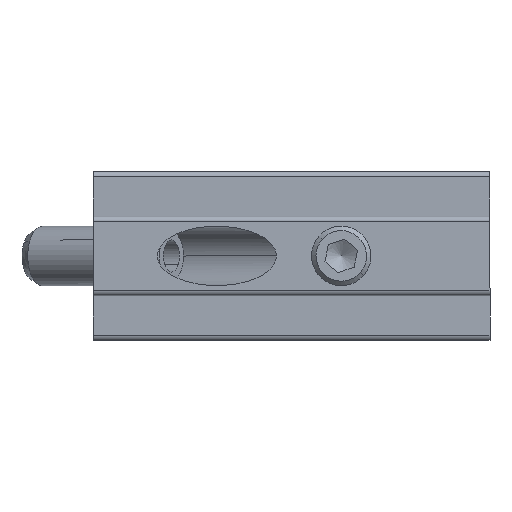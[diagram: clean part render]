
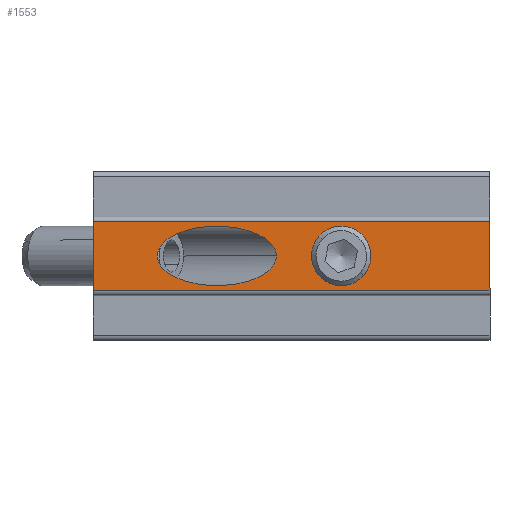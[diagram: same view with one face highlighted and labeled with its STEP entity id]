
A CAD part, top view. The second image highlights one B-rep face of the part: STEP entity #1553.
In plain terms, the highlighted planar face has unit normal (0, 0, 1) as drawn and (1, 0, 0) by its records, which use the part's own axes.
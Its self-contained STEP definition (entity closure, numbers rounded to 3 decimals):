
#9 = ORIENTED_EDGE ( 'NONE', *, *, #434, .T. ) ;
#38 = VERTEX_POINT ( 'NONE', #1092 ) ;
#59 = DIRECTION ( 'NONE',  ( 0., -1., 0. ) ) ;
#86 = CARTESIAN_POINT ( 'NONE',  ( -146.958, 76.547, 62.805 ) ) ;
#95 = CARTESIAN_POINT ( 'NONE',  ( -146.958, 43.002, 64.805 ) ) ;
#111 = PLANE ( 'NONE',  #185 ) ;
#115 = DIRECTION ( 'NONE',  ( 1., 0., 0. ) ) ;
#117 = EDGE_CURVE ( 'NONE', #1778, #38, #147, .T. ) ;
#119 = DIRECTION ( 'NONE',  ( 0., -1., 0. ) ) ;
#136 = EDGE_CURVE ( 'NONE', #492, #736, #151, .T. ) ;
#147 = LINE ( 'NONE', #435, #629 ) ;
#151 =( BOUNDED_CURVE ( )  B_SPLINE_CURVE ( 3, ( #1517, #95, #1285, #842 ),
 .UNSPECIFIED., .F., .F. ) 
 B_SPLINE_CURVE_WITH_KNOTS ( ( 4, 4 ),
 ( 3.142, 6.283 ),
 .UNSPECIFIED. ) 
 CURVE ( )  GEOMETRIC_REPRESENTATION_ITEM ( )  RATIONAL_B_SPLINE_CURVE ( ( 1., 0.333, 0.333, 1. ) ) 
 REPRESENTATION_ITEM ( '' )  );
#185 = AXIS2_PLACEMENT_3D ( 'NONE', #86, #115, #119 ) ;
#252 = AXIS2_PLACEMENT_3D ( 'NONE', #653, #657, #660 ) ;
#253 = ORIENTED_EDGE ( 'NONE', *, *, #1767, .T. ) ;
#296 = CARTESIAN_POINT ( 'NONE',  ( -146.958, 76.547, 62.305 ) ) ;
#325 = DIRECTION ( 'NONE',  ( 0., 0., 1. ) ) ;
#328 = ORIENTED_EDGE ( 'NONE', *, *, #427, .T. ) ;
#355 = FACE_BOUND ( 'NONE', #1697, .T. ) ;
#427 = EDGE_CURVE ( 'NONE', #547, #1330, #1601, .T. ) ;
#428 = CARTESIAN_POINT ( 'NONE',  ( -146.958, 76.547, 62.305 ) ) ;
#434 = EDGE_CURVE ( 'NONE', #1330, #38, #1467, .T. ) ;
#435 = CARTESIAN_POINT ( 'NONE',  ( -146.958, 36.547, 58.805 ) ) ;
#472 = CARTESIAN_POINT ( 'NONE',  ( -146.958, 55.002, 58.805 ) ) ;
#492 = VERTEX_POINT ( 'NONE', #501 ) ;
#501 = CARTESIAN_POINT ( 'NONE',  ( -146.958, 43.002, 58.805 ) ) ;
#547 = VERTEX_POINT ( 'NONE', #1042 ) ;
#558 = CIRCLE ( 'NONE', #252, 2.459 ) ;
#572 = CARTESIAN_POINT ( 'NONE',  ( -146.958, 76.547, 55.305 ) ) ;
#588 = DIRECTION ( 'NONE',  ( 0., 1., 0. ) ) ;
#629 = VECTOR ( 'NONE', #325, 1000. ) ;
#653 = CARTESIAN_POINT ( 'NONE',  ( -146.958, 61.547, 58.805 ) ) ;
#657 = DIRECTION ( 'NONE',  ( -1., 0., 0. ) ) ;
#660 = DIRECTION ( 'NONE',  ( 0., 1., 0. ) ) ;
#722 = CARTESIAN_POINT ( 'NONE',  ( -146.958, 36.547, 55.305 ) ) ;
#736 = VERTEX_POINT ( 'NONE', #472 ) ;
#740 = CARTESIAN_POINT ( 'NONE',  ( -146.958, 55.002, 58.805 ) ) ;
#744 = CARTESIAN_POINT ( 'NONE',  ( -146.958, 55.002, 52.805 ) ) ;
#748 = CARTESIAN_POINT ( 'NONE',  ( -146.958, 43.002, 52.805 ) ) ;
#758 = ORIENTED_EDGE ( 'NONE', *, *, #1365, .T. ) ;
#768 = CARTESIAN_POINT ( 'NONE',  ( -146.958, 43.002, 58.805 ) ) ;
#772 = DIRECTION ( 'NONE',  ( 0., 1., 0. ) ) ;
#827 = ORIENTED_EDGE ( 'NONE', *, *, #117, .F. ) ;
#842 = CARTESIAN_POINT ( 'NONE',  ( -146.958, 55.002, 58.805 ) ) ;
#888 = VERTEX_POINT ( 'NONE', #1557 ) ;
#913 = CARTESIAN_POINT ( 'NONE',  ( -146.958, 61.547, 58.805 ) ) ;
#954 = FACE_BOUND ( 'NONE', #1663, .T. ) ;
#1009 = AXIS2_PLACEMENT_3D ( 'NONE', #913, #1170, #772 ) ;
#1017 = EDGE_LOOP ( 'NONE', ( #827, #1623, #328, #9 ) ) ;
#1036 =( BOUNDED_CURVE ( )  B_SPLINE_CURVE ( 3, ( #740, #744, #748, #768 ),
 .UNSPECIFIED., .F., .T. ) 
 B_SPLINE_CURVE_WITH_KNOTS ( ( 4, 4 ),
 ( 0., 3.142 ),
 .UNSPECIFIED. ) 
 CURVE ( )  GEOMETRIC_REPRESENTATION_ITEM ( )  RATIONAL_B_SPLINE_CURVE ( ( 1., 0.333, 0.333, 1. ) ) 
 REPRESENTATION_ITEM ( '' )  );
#1042 = CARTESIAN_POINT ( 'NONE',  ( -146.958, 76.547, 55.305 ) ) ;
#1050 = CARTESIAN_POINT ( 'NONE',  ( -146.958, 76.547, 58.805 ) ) ;
#1092 = CARTESIAN_POINT ( 'NONE',  ( -146.958, 36.547, 62.305 ) ) ;
#1170 = DIRECTION ( 'NONE',  ( -1., 0., 0. ) ) ;
#1187 = VECTOR ( 'NONE', #588, 1000. ) ;
#1222 = ORIENTED_EDGE ( 'NONE', *, *, #136, .T. ) ;
#1285 = CARTESIAN_POINT ( 'NONE',  ( -146.958, 55.002, 64.805 ) ) ;
#1314 = VERTEX_POINT ( 'NONE', #1635 ) ;
#1330 = VERTEX_POINT ( 'NONE', #428 ) ;
#1350 = FACE_OUTER_BOUND ( 'NONE', #1017, .T. ) ;
#1365 = EDGE_CURVE ( 'NONE', #1314, #888, #1690, .T. ) ;
#1422 = VECTOR ( 'NONE', #59, 1000. ) ;
#1451 = ORIENTED_EDGE ( 'NONE', *, *, #1792, .T. ) ;
#1466 = VECTOR ( 'NONE', #1670, 1000. ) ;
#1467 = LINE ( 'NONE', #296, #1422 ) ;
#1486 = LINE ( 'NONE', #572, #1187 ) ;
#1517 = CARTESIAN_POINT ( 'NONE',  ( -146.958, 43.002, 58.805 ) ) ;
#1553 = ADVANCED_FACE ( 'NONE', ( #355, #954, #1350 ), #111, .T. ) ;
#1557 = CARTESIAN_POINT ( 'NONE',  ( -146.958, 59.089, 58.805 ) ) ;
#1601 = LINE ( 'NONE', #1050, #1466 ) ;
#1623 = ORIENTED_EDGE ( 'NONE', *, *, #1757, .T. ) ;
#1635 = CARTESIAN_POINT ( 'NONE',  ( -146.958, 64.006, 58.805 ) ) ;
#1663 = EDGE_LOOP ( 'NONE', ( #1222, #1451 ) ) ;
#1670 = DIRECTION ( 'NONE',  ( 0., 0., 1. ) ) ;
#1690 = CIRCLE ( 'NONE', #1009, 2.459 ) ;
#1697 = EDGE_LOOP ( 'NONE', ( #758, #253 ) ) ;
#1757 = EDGE_CURVE ( 'NONE', #1778, #547, #1486, .T. ) ;
#1767 = EDGE_CURVE ( 'NONE', #888, #1314, #558, .T. ) ;
#1778 = VERTEX_POINT ( 'NONE', #722 ) ;
#1792 = EDGE_CURVE ( 'NONE', #736, #492, #1036, .T. ) ;
